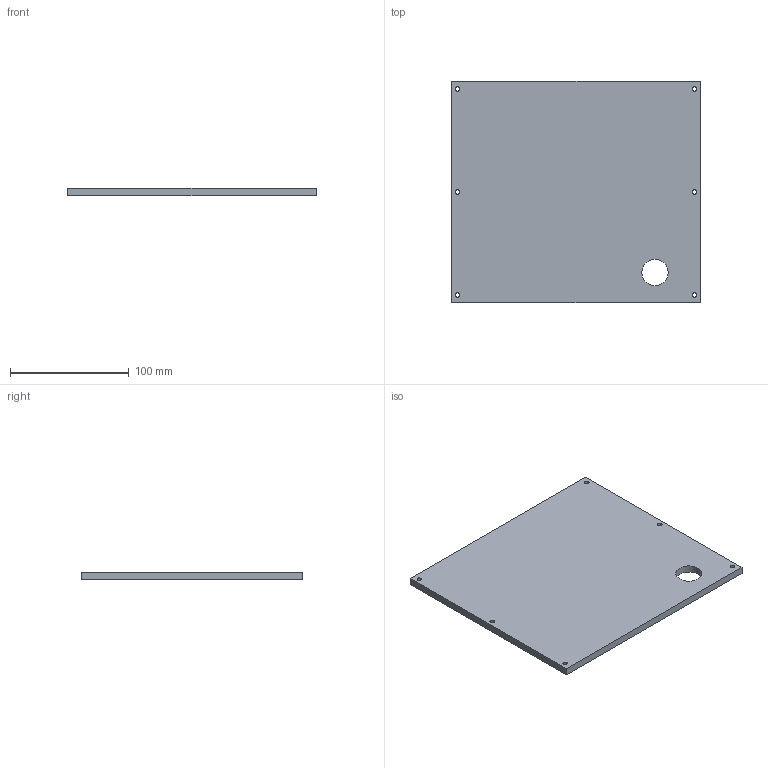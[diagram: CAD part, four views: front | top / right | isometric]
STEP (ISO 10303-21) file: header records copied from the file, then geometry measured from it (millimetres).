
FILE_DESCRIPTION (( 'STEP AP203' ), '1' );
FILE_NAME ('Back_Plate.STEP', '2026-01-29T02:20:33', ( '' ), ( '' ), 'SwSTEP 2.0', 'SolidWorks 2019', '' );
FILE_SCHEMA (( 'CONFIG_CONTROL_DESIGN' ));
Length unit declared in the file: inch
Products named in the file (1): Back_Plate
Bounding box: 209.55 x 186.69 x 6.35 mm (x, y, z)
Volume: 245519.8 mm3; surface area: 83260.7 mm2
Topology: 1 solids, 1 shells, 20 faces, 54 edges, 36 vertices
Faces by surface type: cylinder 14, plane 6
Entity records: 753 total; most frequent: DIRECTION 124, CARTESIAN_POINT 111, ORIENTED_EDGE 108, EDGE_CURVE 54, AXIS2_PLACEMENT_3D 49, VERTEX_POINT 36, EDGE_LOOP 34, CIRCLE 28
